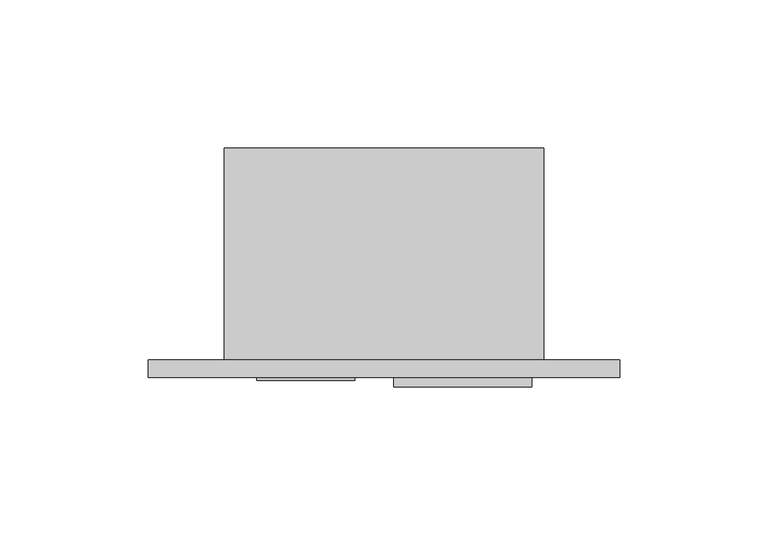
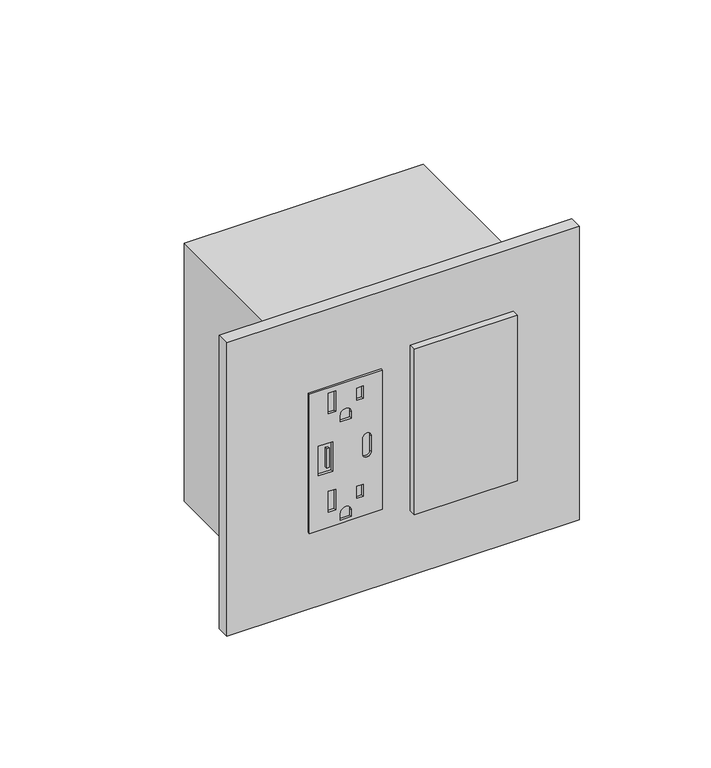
"""IFC4 building model written with IfcOpenShell, lengths in millimetres: proxy geometry, Electrical-Teknion-EPDMD_Vertical_Power_Data_Double-R2019 : PD Vertical Module - Double 15 Amp USB (A+C)."""

from ifc_helpers import new_model, si_unit, point, frame, frame_2d, origin, place, context, project, spatial, polyline, circle_curve, trimmed, segment, composite_curve, outline, extrude, source, transform, mapped, element, save


def electrical_fixtures_bc09baf7(model_context):
    return source(origin(), model_context, "Body", "SweptSolid", [
        extrude(outline(polyline([(414.1844229, 44.0944), (414.1844229, 11.0998), (347.6364229, 11.0998), (347.6364229, 44.0944), (414.1844229, 44.0944)]), holes=[polyline([(411.7460229, 22.9616), (401.9184878, 22.9616), (401.9184878, 19.6342), (411.7460229, 19.6342), (411.7460229, 22.9616)]), polyline([(409.7405554, 35.41014), (403.9239554, 35.41014), (403.9239554, 32.4358), (409.7405554, 32.4358), (409.7405554, 35.41014)]), composite_curve([segment(polyline([(396.1504229, 30.0609), (396.1504229, 25.1333), (399.2492229, 25.1333)]), True, "CONTINUOUS"), segment(trimmed(circle_curve(frame_2d((399.2492229, 27.5971)), 2.4638), [point((399.2492229, 25.1333))], [point((399.2492229, 30.0609))], True, "CARTESIAN"), True, "CONTINUOUS"), segment(polyline([(399.2492229, 30.0609), (396.1504229, 30.0609)]), True, "CONTINUOUS")], self_intersect=False), polyline([(364.7560229, 22.9616), (354.9284878, 22.9616), (354.9284878, 19.6342), (364.7560229, 19.6342), (364.7560229, 22.9616)]), polyline([(362.7505554, 35.41014), (356.9339554, 35.41014), (356.9339554, 32.4358), (362.7505554, 32.4358), (362.7505554, 35.41014)]), composite_curve([segment(polyline([(349.1604229, 30.0609), (349.1604229, 25.1333), (352.2592229, 25.1333)]), True, "CONTINUOUS"), segment(trimmed(circle_curve(frame_2d((352.2592229, 27.5971)), 2.4638), [point((352.2592229, 25.1333))], [point((352.2592229, 30.0609))], True, "CARTESIAN"), True, "CONTINUOUS"), segment(polyline([(352.2592229, 30.0609), (349.1604229, 30.0609)]), True, "CONTINUOUS")], self_intersect=False), polyline([(387.9589229, 21.59), (373.8619229, 21.59), (373.8619229, 15.0876), (387.9589229, 15.0876), (387.9589229, 21.59)]), composite_curve([segment(trimmed(circle_curve(frame_2d((377.1258229, 37.1348)), 1.905), [point((377.1258229, 39.0398))], [point((377.1258229, 35.2298))], True, "CARTESIAN"), True, "CONTINUOUS"), segment(polyline([(377.1258229, 35.2298), (384.6950229, 35.2298)]), True, "CONTINUOUS"), segment(trimmed(circle_curve(frame_2d((384.6950229, 37.1348)), 1.905), [point((384.6950229, 35.2298))], [point((384.6950229, 39.0398))], True, "CARTESIAN"), True, "CONTINUOUS"), segment(polyline([(384.6950229, 39.0398), (377.1258229, 39.0398)]), True, "CONTINUOUS")], self_intersect=False)]), frame((0.0, -6.9294746, 0.0), z_axis=(0.0, 1.0, 0.0), x_axis=(0.0, 0.0, 1.0)), (0.0, 0.0, 1.0), 1.0366746),
        extrude(outline(polyline([(20.0803959, -6.9294746), (18.9613268, -6.9294746), (18.9613268, -5.8928), (20.0803959, -5.8928), (20.0803959, -6.9294746)])), frame((0.0, 0.0, 376.2102391), z_axis=(0.0, 0.0, 1.0), x_axis=(1.0, 0.0, 0.0)), (0.0, 0.0, 1.0), 9.2470447),
        extrude(outline(polyline([(57.3278, -5.8928), (103.8606, -5.8928), (103.8606, -9.0678), (57.3278, -9.0678), (57.3278, -5.8928)])), frame((0.0, 0.0, 341.7026971), z_axis=(0.0, 0.0, 1.0), x_axis=(1.0, 0.0, 0.0)), (0.0, 0.0, 1.0), 79.0448),
        extrude(outline(polyline([(-25.6794, 0.0), (133.7056, 0.0), (133.7056, -5.8928), (-25.6794, -5.8928), (-25.6794, 0.0)])), frame((0.0, 0.0, 310.7302229), z_axis=(0.0, 0.0, 1.0), x_axis=(1.0, 0.0, 0.0)), (0.0, 0.0, 1.0), 140.3604),
        extrude(outline(polyline([(108.0262, 0.0), (0.0, 0.0), (0.0, 71.7296), (108.0262, 71.7296), (108.0262, 0.0)])), frame((0.0, 0.0, 319.1630229), z_axis=(0.0, 0.0, 1.0), x_axis=(1.0, 0.0, 0.0)), (0.0, 0.0, 1.0), 123.4948),
    ])


if __name__ == "__main__":
    model = new_model("IFC4")
    model_context = context("Model", 3, world=origin())
    ifc_project = project(units=[si_unit("LENGTHUNIT", "METRE", prefix="MILLI")], contexts=[model_context])
    site = spatial("IfcSite", under=ifc_project)
    building = spatial("IfcBuilding", under=site)
    placement = place(None, origin())
    electrical_fixtures_shape = electrical_fixtures_bc09baf7(model_context)
    element("IfcBuildingElementProxy", 1, Name="Electrical-Teknion-EPDMD_Vertical_Power_Data_Double-R2019 : PD Vertical Module - Double 15 Amp USB (A+C)", ObjectType="Electrical-Teknion-EPDMD_Vertical_Power_Data_Double-R2019 : PD Vertical Module - Double 15 Amp USB (A+C)", at=placement, inside=building, context=model_context, shape_type="MappedRepresentation", body=[
        mapped(electrical_fixtures_shape, transform((0.0, 0.0, 0.0), x_axis=(1.0, 0.0, 0.0), y_axis=(0.0, 1.0, 0.0), z_axis=(0.0, 0.0, 1.0))),
    ])
    save(model, "model.ifc")
